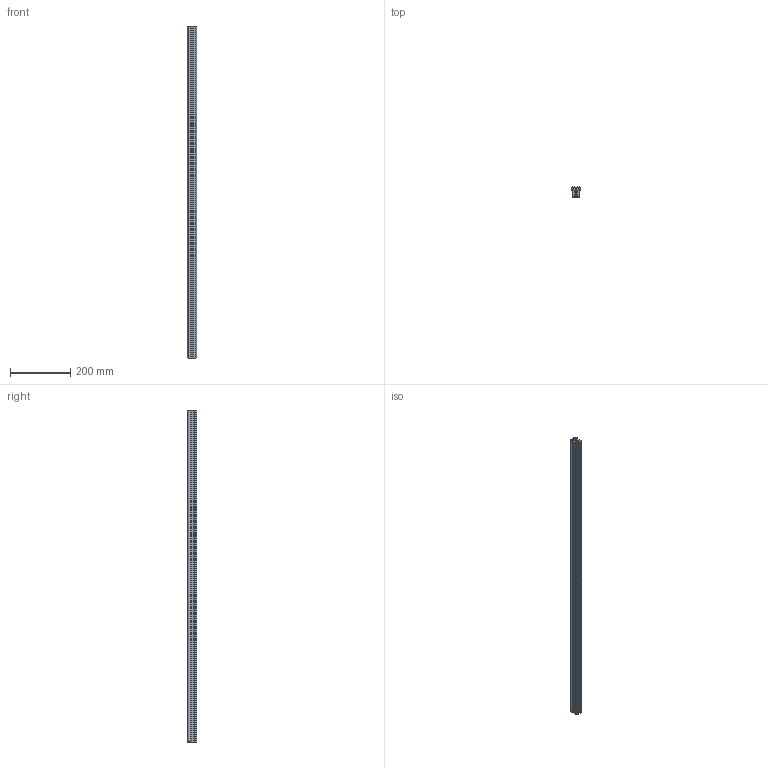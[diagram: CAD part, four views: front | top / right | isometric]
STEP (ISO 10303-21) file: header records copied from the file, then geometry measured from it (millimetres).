
FILE_DESCRIPTION (( 'STEP AP203' ), '1' );
FILE_NAME ('MLF 2_-_MLF 2 1098 mm lang.step', '2005-06-03T08:34:59', ( ' ' ), ( ' ' ), 'SwSTEP 2.0', 'SolidWorks 2004231', '' );
FILE_SCHEMA (( 'CONFIG_CONTROL_DESIGN' ));
Length unit declared in the file: millimetre
Products named in the file (1): MLF 2_-_MLF 2  1098 mm lang
Bounding box: 30 x 32.5 x 1098 mm (x, y, z)
Volume: 617034.6 mm3; surface area: 274413.6 mm2
Topology: 1 solids, 1 shells, 112 faces, 342 edges, 224 vertices
Faces by surface type: plane 90, cylinder 22
Entity records: 3875 total; most frequent: ORIENTED_EDGE 684, CARTESIAN_POINT 679, DIRECTION 612, EDGE_CURVE 342, VECTOR 298, LINE 298, VERTEX_POINT 224, AXIS2_PLACEMENT_3D 157
